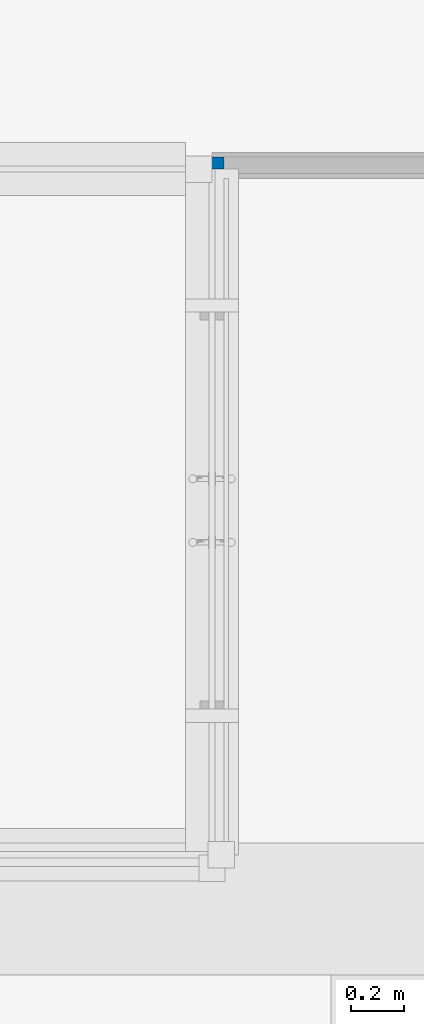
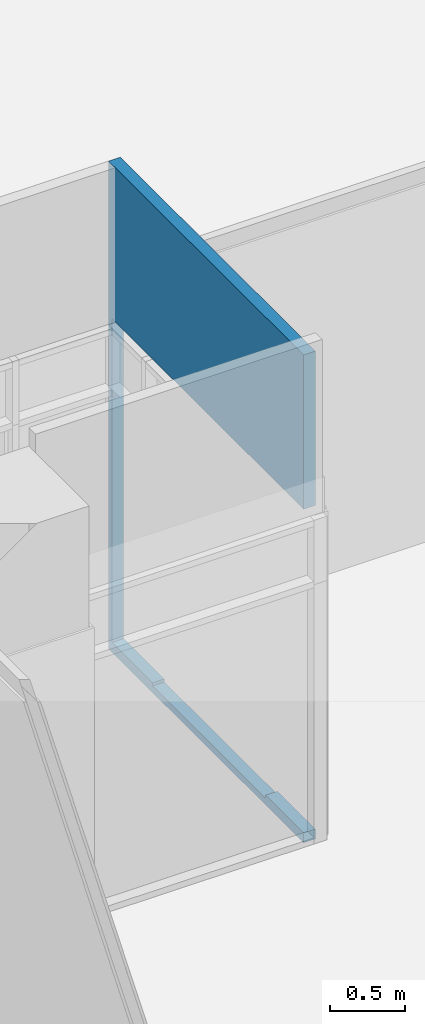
# One storey, part 47 of 81: 1 wall, 2 openings.
"""IFC2X3 building model written with IfcOpenShell, lengths in millimetres."""

from ifc_helpers import new_model, entity, si_unit, converted_unit, derived_unit, direction, frame, frame_2d, origin, place, context, subcontext, project, spatial, polyline, rectangle, outline, extrude, clip, bounded_halfspace, material, layer, layer_set, layer_usage, type_object, element, save


model = new_model("IFC2X3")

# Units and contexts
model_context = context("Model", 3, precision=0.01, world=origin(), true_north=direction((6.123031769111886e-17, 1.0)))
body_context = subcontext(model_context, "Body", "Model", "MODEL_VIEW")
ifc_project = project(units=[si_unit("LENGTHUNIT", "METRE", prefix="MILLI"), si_unit("AREAUNIT", "SQUARE_METRE"), si_unit("VOLUMEUNIT", "CUBIC_METRE"), converted_unit("PLANEANGLEUNIT", "DEGREE", entity("IfcRatioMeasure", 0.017453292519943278), si_unit("PLANEANGLEUNIT", "RADIAN"), dimensions=[0, 0, 0, 0, 0, 0, 0]), si_unit("MASSUNIT", "GRAM", prefix="KILO"), derived_unit("MASSDENSITYUNIT", [(si_unit("MASSUNIT", "GRAM", prefix="KILO"), 1), (si_unit("LENGTHUNIT", "METRE"), -3)]), derived_unit("MOMENTOFINERTIAUNIT", [(si_unit("LENGTHUNIT", "METRE"), 4)]), si_unit("TIMEUNIT", "SECOND"), si_unit("FREQUENCYUNIT", "HERTZ"), si_unit("THERMODYNAMICTEMPERATUREUNIT", "DEGREE_CELSIUS"), derived_unit("THERMALTRANSMITTANCEUNIT", [(si_unit("MASSUNIT", "GRAM", prefix="KILO"), 1), (si_unit("THERMODYNAMICTEMPERATUREUNIT", "KELVIN"), -1), (si_unit("TIMEUNIT", "SECOND"), -3)]), derived_unit("VOLUMETRICFLOWRATEUNIT", [(si_unit("LENGTHUNIT", "METRE"), 3), (si_unit("TIMEUNIT", "SECOND"), -1)]), derived_unit("MASSFLOWRATEUNIT", [(si_unit("MASSUNIT", "GRAM", prefix="KILO"), 1), (si_unit("TIMEUNIT", "SECOND"), -1)]), derived_unit("ROTATIONALFREQUENCYUNIT", [(si_unit("TIMEUNIT", "SECOND"), -1)]), si_unit("ELECTRICCURRENTUNIT", "AMPERE"), si_unit("ELECTRICVOLTAGEUNIT", "VOLT"), si_unit("POWERUNIT", "WATT"), si_unit("FORCEUNIT", "NEWTON", prefix="KILO"), si_unit("ILLUMINANCEUNIT", "LUX"), si_unit("LUMINOUSFLUXUNIT", "LUMEN"), si_unit("LUMINOUSINTENSITYUNIT", "CANDELA"), derived_unit("USERDEFINED", [(si_unit("MASSUNIT", "GRAM", prefix="KILO"), -1), (si_unit("LENGTHUNIT", "METRE"), -2), (si_unit("TIMEUNIT", "SECOND"), 3), (si_unit("LUMINOUSFLUXUNIT", "LUMEN"), 1)]), derived_unit("SOUNDPOWERUNIT", [(si_unit("MASSUNIT", "GRAM", prefix="KILO"), 1), (si_unit("LENGTHUNIT", "METRE"), 2), (si_unit("TIMEUNIT", "SECOND"), -3)]), derived_unit("SOUNDPRESSUREUNIT", [(si_unit("MASSUNIT", "GRAM", prefix="KILO"), 1), (si_unit("LENGTHUNIT", "METRE"), -1), (si_unit("TIMEUNIT", "SECOND"), -2)]), derived_unit("LINEARVELOCITYUNIT", [(si_unit("LENGTHUNIT", "METRE"), 1), (si_unit("TIMEUNIT", "SECOND"), -1)]), si_unit("PRESSUREUNIT", "PASCAL"), derived_unit("USERDEFINED", [(si_unit("LENGTHUNIT", "METRE"), -2), (si_unit("MASSUNIT", "GRAM", prefix="KILO"), 1), (si_unit("TIMEUNIT", "SECOND"), -2)]), derived_unit("LINEARFORCEUNIT", [(si_unit("MASSUNIT", "GRAM", prefix="KILO"), 1), (si_unit("LENGTHUNIT", "METRE"), 1), (si_unit("TIMEUNIT", "SECOND"), -2), (si_unit("LENGTHUNIT", "METRE"), -1)]), derived_unit("PLANARFORCEUNIT", [(si_unit("MASSUNIT", "GRAM", prefix="KILO"), 1), (si_unit("LENGTHUNIT", "METRE"), 1), (si_unit("TIMEUNIT", "SECOND"), -2), (si_unit("LENGTHUNIT", "METRE"), -2)])], contexts=[model_context])

# Site, building, storey
site_placement = place(None, frame((-14167.972527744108, -657.2125860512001, 0.0)))
site = spatial("IfcSite", under=ifc_project, at=site_placement, Name="Default", CompositionType="ELEMENT")
building_placement = place(site_placement, origin())
building = spatial("IfcBuilding", under=site, at=building_placement, Name="Sample Building", CompositionType="ELEMENT")
storey_placement = place(building_placement, frame((0.0, 0.0, 13400.0)))
storey = spatial("IfcBuildingStorey", under=building, at=storey_placement, Name="지상 4층", CompositionType="ELEMENT", Elevation=13400.00000000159)

# Wall, openings
ifc_material = material(Name="KBIMS-시멘트 벽돌")
ifc_layer = layer(ifc_material, 90.0)
ifc_layer_set = layer_set([ifc_layer], Name="기본 벽:WA211-시멘트벽돌(일반) 벽 (0.5B) 90mm")
ifc_layer_usage = layer_usage(ifc_layer_set, "AXIS2", "POSITIVE", -45.0)
wall_type = type_object("IfcWallType", Name="기본 벽:WA211-시멘트벽돌(일반) 벽 (0.5B) 90mm", PredefinedType="STANDARD", material=ifc_layer_set)
wall_placement = place(storey_placement, frame((43717.972491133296, 13057.21238308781, 0.0), z_axis=(0.0, 0.0, 1.0), x_axis=(0.0, 1.0, 0.0)))
wall = element("IfcWallStandardCase", 1, at=wall_placement, inside=storey, type_object=wall_type, material=ifc_layer_usage, Name="기본 벽:WA211-시멘트벽돌(일반) 벽 (0.5B) 90mm", ObjectType="기본 벽:WA211-시멘트벽돌(일반) 벽 (0.5B) 90mm", context=body_context, shape_type="Clipping", body=[
    clip(extrude(rectangle(XDim=2590.000202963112, YDim=89.99999999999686, at=frame_2d((1295.000101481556, 0.0), x_axis=(-1.0, 0.0))), origin(), (0.0, 0.0, 1.0), 3950.00000000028), bounded_halfspace(frame((0.0, -45.0, 3950.0), z_axis=(0.0, 0.0, -1.0), x_axis=(-1.0, 0.0, 0.0)), True, frame((0.0, -45.0, 3950.0), z_axis=(0.0, 0.0, -1.0), x_axis=(-1.0, 0.0, 0.0)), polyline([(0.0, 0.0), (0.0, 27432.0), (-762000.0618631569, 27432.0), (-789432.0618631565, 27432.0), (-789432.0618631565, -2.1050936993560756e-09), (0.0, 0.0)]))),
])
opening_1_placement = place(wall_placement, origin())
element("IfcOpeningElement", 2, at=opening_1_placement, cuts=wall, Name="기본 벽:WA211-시멘트벽돌(일반) 벽 (0.5B) 90mm", ObjectType="Opening", context=body_context, shape_type="SweptSolid", body=[
    extrude(outline(polyline([(-1446.2500000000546, -1317.526181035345), (1173.7499999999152, -1317.526181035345), (1173.7499999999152, -777.4912729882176), (-901.2499999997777, -777.4912729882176), (-901.2499999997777, 722.5087270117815), (1173.7499999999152, 722.5087270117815), (1173.7499999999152, 1372.508727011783), (-1446.2500000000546, 1372.508727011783), (-1446.2500000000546, -1317.526181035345)])), frame((1227.4740219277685, -197.39999999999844, 1253.7499999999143), z_axis=(0.0, 1.0, 0.0), x_axis=(0.0, 0.0, -1.0)), (0.0, 0.0, 1.0), 394.7999999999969),
])
opening_2_placement = place(wall_placement, frame((504.965294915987, -45.0, 55.0)))
element("IfcOpeningElement", 3, at=opening_2_placement, cuts=wall, Name="DR121-쌍여닫이문(철재, 일반, 양개):DR121-쌍여닫이문(유리, 일반, 양개) 1500x2100mm:1", ObjectType="Opening", context=body_context, shape_type="SweptSolid", body=[
    extrude(rectangle(XDim=2099.9999999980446, YDim=1500.0, at=frame_2d((1049.9999999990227, 750.0), x_axis=(1.0, 0.0))), frame((0.0, 0.0, 0.0), z_axis=(0.0, 1.0, 0.0), x_axis=(0.0, 0.0, 1.0)), (0.0, 0.0, 1.0), 90.0),
])

save(model, "model.ifc")
